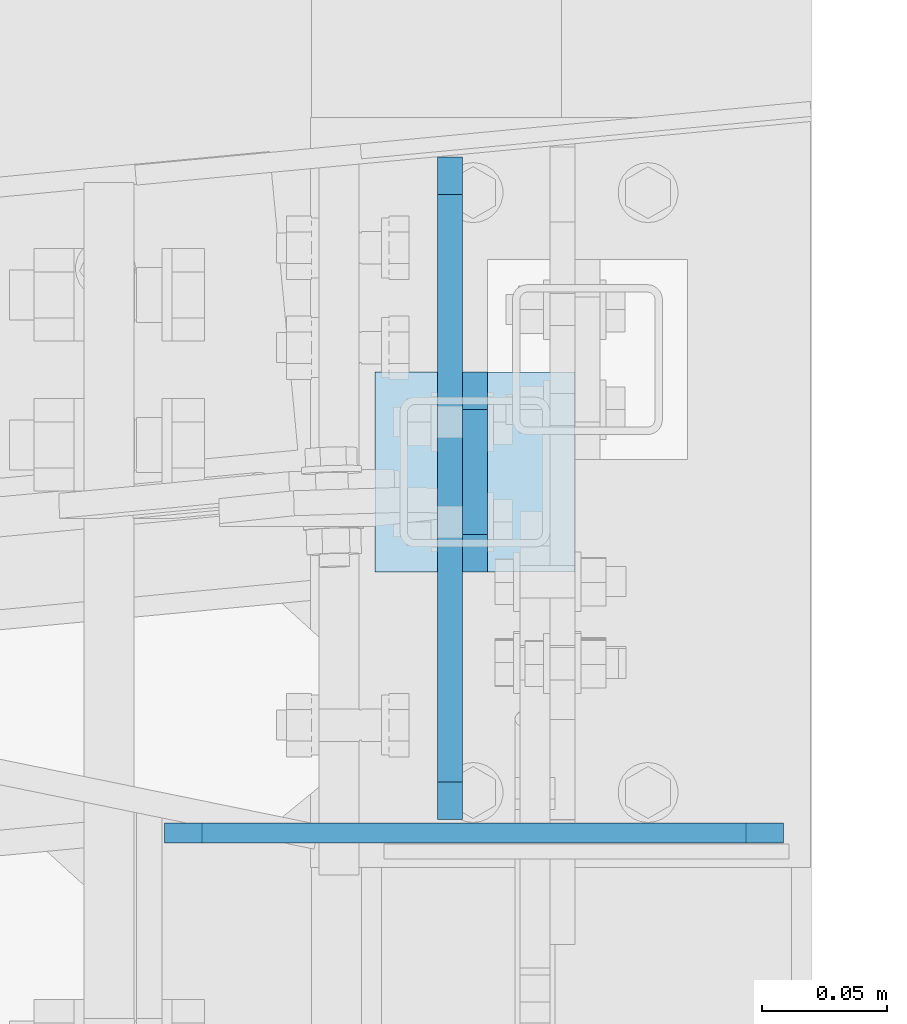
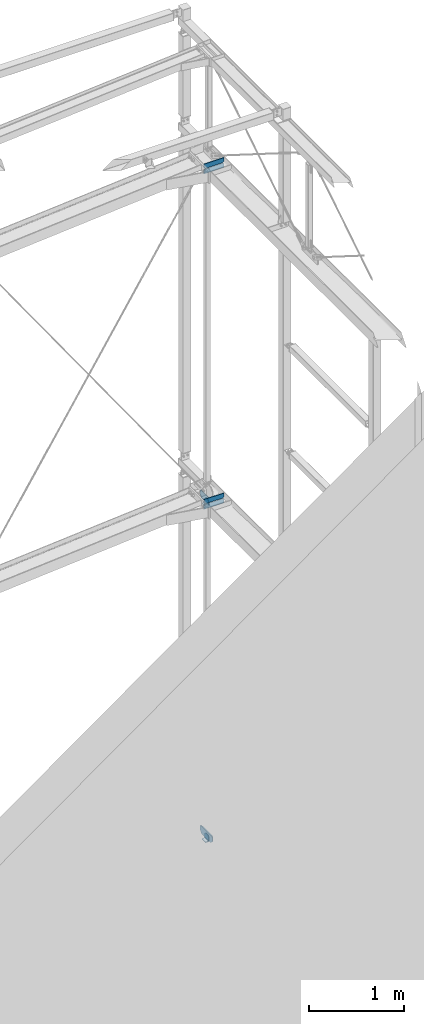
# One storey, part 192 of 271: 10 plates, 5 elements without a shape of their own.
"""IFC2X3 building model written with IfcOpenShell, lengths in millimetres."""

from ifc_helpers import new_model, si_unit, frame, origin_with_axes, place, context, subcontext, project, spatial, polyline, outline, extrude, material, type_object, element, aggregate, save


model = new_model("IFC2X3")

# Units and contexts
model_context = context("Model", 3, precision=1e-05, world=origin_with_axes())
body_context = subcontext(model_context, "Body", "Model", "MODEL_VIEW")
ifc_project = project(units=[si_unit("LENGTHUNIT", "METRE", prefix="MILLI"), si_unit("AREAUNIT", "SQUARE_METRE"), si_unit("VOLUMEUNIT", "CUBIC_METRE"), si_unit("MASSUNIT", "GRAM", prefix="KILO"), si_unit("TIMEUNIT", "SECOND"), si_unit("PLANEANGLEUNIT", "RADIAN"), si_unit("SOLIDANGLEUNIT", "STERADIAN"), si_unit("THERMODYNAMICTEMPERATUREUNIT", "DEGREE_CELSIUS"), si_unit("LUMINOUSINTENSITYUNIT", "LUMEN")], contexts=[model_context])

# Site, building, storey
site_placement = place(None, origin_with_axes())
site = spatial("IfcSite", under=ifc_project, at=site_placement, Name="Undefined", CompositionType="ELEMENT")
building_placement = place(site_placement, origin_with_axes())
building = spatial("IfcBuilding", under=site, at=building_placement, Name="Undefined", CompositionType="ELEMENT")
storey_placement = place(building_placement, origin_with_axes())
storey = spatial("IfcBuildingStorey", under=building, at=storey_placement, Name="Undefined", CompositionType="ELEMENT", Elevation=0.0)

# Assembly, plate
assembly_1_placement = place(storey_placement, origin_with_axes())
assembly_1 = element("IfcElementAssembly", 1, at=assembly_1_placement, inside=storey, AssemblyPlace="NOTDEFINED", PredefinedType="RIGID_FRAME")
ifc_material = material(Name="STEEL/S355JR")
plate_type_1 = type_object("IfcPlateType", Name="BL10*70", PredefinedType="NOTDEFINED")
plate_1_placement = place(assembly_1_placement, frame((12573.751374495, 4332.19355050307, 14256.049999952), z_axis=(1.0, 0.0, 0.0), x_axis=(0.0, -0.707106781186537, 0.707106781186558)))
plate_1 = element("IfcPlate", 2, at=plate_1_placement, type_object=plate_type_1, material=ifc_material, Name="BLACHA", ObjectType="BL10*70", context=body_context, shape_type="SweptSolid", body=[
    extrude(outline(polyline([(0.0, 0.0), (21.2132034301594, 1.09139364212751e-11), (56.5685424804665, 35.3553390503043), (56.568542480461, 56.5685424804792), (17.6776695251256, 95.4594192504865), (-38.890872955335, 38.8908729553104), (0.0, 0.0)])), frame((0.0, 0.0, -5.0), z_axis=(0.0, 0.0, 1.0), x_axis=(1.0, 0.0, 0.0)), (0.0, 0.0, 1.0), 10.0),
])

assembly_2_placement = place(storey_placement, origin_with_axes())
assembly_2 = element("IfcElementAssembly", 3, at=assembly_2_placement, inside=storey, AssemblyPlace="NOTDEFINED", PredefinedType="RIGID_FRAME")
plate_2_placement = place(assembly_2_placement, frame((12573.751374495, 4332.19355050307, 9936.04999995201), z_axis=(1.0, 0.0, 0.0), x_axis=(0.0, -0.707106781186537, 0.707106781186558)))
plate_2 = element("IfcPlate", 4, at=plate_2_placement, type_object=plate_type_1, material=ifc_material, Name="BLACHA", ObjectType="BL10*70", context=body_context, shape_type="SweptSolid", body=[
    extrude(outline(polyline([(0.0, 0.0), (21.2132034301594, 1.09139364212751e-11), (56.5685424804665, 35.3553390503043), (56.568542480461, 56.5685424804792), (17.6776695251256, 95.4594192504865), (-38.890872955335, 38.8908729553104), (0.0, 0.0)])), frame((0.0, 0.0, -5.0), z_axis=(0.0, 0.0, 1.0), x_axis=(1.0, 0.0, 0.0)), (0.0, 0.0, 1.0), 10.0),
])

assembly_3_placement = place(storey_placement, origin_with_axes())
assembly_3 = element("IfcElementAssembly", 5, at=assembly_3_placement, inside=storey, AssemblyPlace="NOTDEFINED", PredefinedType="RIGID_FRAME")
plate_type_2 = type_object("IfcPlateType", Name="BL10*100", PredefinedType="NOTDEFINED")
plate_3_placement = place(assembly_3_placement, frame((12563.751374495, 4418.19355050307, 14321.049999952), z_axis=(1.0, 0.0, 0.0), x_axis=(0.0, -1.0, 0.0)))
plate_3 = element("IfcPlate", 6, at=plate_3_placement, type_object=plate_type_2, material=ifc_material, Name="BLACHA", ObjectType="BL10*100", context=body_context, shape_type="SweptSolid", body=[
    extrude(outline(polyline([(0.0, 15.0), (15.0, -1.59872115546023e-14), (250.0, -1.4210854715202e-14), (265.0, 15.0), (265.0, 60.0000000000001), (225.0, 100.0), (40.0, 100.0), (0.0, 60.0), (0.0, 15.0)])), frame((0.0, 0.0, -5.0), z_axis=(0.0, 0.0, 1.0), x_axis=(1.0, 0.0, 0.0)), (0.0, 0.0, 1.0), 10.0),
])

assembly_4_placement = place(storey_placement, origin_with_axes())
assembly_4 = element("IfcElementAssembly", 7, at=assembly_4_placement, inside=storey, AssemblyPlace="NOTDEFINED", PredefinedType="RIGID_FRAME")
plate_4_placement = place(assembly_4_placement, frame((12563.751374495, 4418.19355050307, 10001.049999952), z_axis=(1.0, 0.0, 0.0), x_axis=(0.0, -1.0, 0.0)))
plate_4 = element("IfcPlate", 8, at=plate_4_placement, type_object=plate_type_2, material=ifc_material, Name="BLACHA", ObjectType="BL10*100", context=body_context, shape_type="SweptSolid", body=[
    extrude(outline(polyline([(0.0, 15.0), (15.0, -1.59872115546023e-14), (250.0, -1.4210854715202e-14), (265.0, 15.0), (265.0, 60.0000000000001), (225.0, 100.0), (40.0, 100.0), (0.0, 60.0), (0.0, 15.0)])), frame((0.0, 0.0, -5.0), z_axis=(0.0, 0.0, 1.0), x_axis=(1.0, 0.0, 0.0)), (0.0, 0.0, 1.0), 10.0),
])
aggregate(assembly_4, [plate_4])

# Plate
plate_type_3 = type_object("IfcPlateType", Name="BL8*80", PredefinedType="NOTDEFINED")
plate_5_placement = place(assembly_1_placement, frame((12533.751374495, 4332.19355050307, 14197.049999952), z_axis=(0.0, 0.0, 1.0), x_axis=(0.0, -1.0, 0.0)))
plate_5 = element("IfcPlate", 9, at=plate_5_placement, type_object=plate_type_3, material=ifc_material, Name="BLACHA", ObjectType="BL8*80", context=body_context, shape_type="SweptSolid", body=[
    extrude(outline(polyline([(0.0, 0.0), (80.0, 0.0), (80.0, 80.0), (0.0, 80.0), (0.0, 0.0)])), frame((0.0, 0.0, -4.0), z_axis=(0.0, 0.0, 1.0), x_axis=(1.0, 0.0, 0.0)), (0.0, 0.0, 1.0), 8.0),
])

aggregate(assembly_1, [plate_5, plate_1])

plate_6_placement = place(assembly_2_placement, frame((12533.751374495, 4332.19355050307, 9877.04999995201), z_axis=(0.0, 0.0, 1.0), x_axis=(0.0, -1.0, 0.0)))
plate_6 = element("IfcPlate", 10, at=plate_6_placement, type_object=plate_type_3, material=ifc_material, Name="BLACHA", ObjectType="BL8*80", context=body_context, shape_type="SweptSolid", body=[
    extrude(outline(polyline([(0.0, 0.0), (80.0, 0.0), (80.0, 80.0), (0.0, 80.0), (0.0, 0.0)])), frame((0.0, 0.0, -4.0), z_axis=(0.0, 0.0, 1.0), x_axis=(1.0, 0.0, 0.0)), (0.0, 0.0, 1.0), 8.0),
])

aggregate(assembly_2, [plate_6, plate_2])

# Assembly, plates
assembly_5_placement = place(storey_placement, origin_with_axes())
assembly_5 = element("IfcElementAssembly", 11, at=assembly_5_placement, inside=storey, AssemblyPlace="NOTDEFINED", PredefinedType="RIGID_FRAME")
plate_type_4 = type_object("IfcPlateType", Name="BL8*60", PredefinedType="NOTDEFINED")
plate_7_placement = place(assembly_5_placement, frame((12449.5756869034, 4147.85328603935, 18581.049999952), z_axis=(0.0, 1.0, 0.0), x_axis=(0.0, 0.0, 1.0)))
plate_7 = element("IfcPlate", 12, at=plate_7_placement, type_object=plate_type_4, material=ifc_material, Name="BLACHA", ObjectType="BL8*60", context=body_context, shape_type="SweptSolid", body=[
    extrude(outline(polyline([(0.0, 0.0), (45.0, 0.0), (60.0, 15.0), (60.0, 232.600006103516), (45.0, 247.600006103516), (0.0, 247.600006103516), (0.0, 0.0)])), frame((0.0, 0.0, -4.0), z_axis=(0.0, 0.0, 1.0), x_axis=(1.0, 0.0, 0.0)), (0.0, 0.0, 1.0), 8.0),
])
plate_8_placement = place(assembly_5_placement, frame((12449.5756869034, 4147.85328603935, 18707.649999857), z_axis=(0.0, -1.0, 0.0), x_axis=(0.0, 0.0, -1.0)))
plate_8 = element("IfcPlate", 13, at=plate_8_placement, type_object=plate_type_4, material=ifc_material, Name="BLACHA", ObjectType="BL8*60", context=body_context, shape_type="SweptSolid", body=[
    extrude(outline(polyline([(0.0, 0.0), (45.0, 0.0), (60.0, 15.0), (60.0, 232.600006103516), (45.0, 247.600006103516), (0.0, 247.600006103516), (0.0, 0.0)])), frame((0.0, 0.0, -4.0), z_axis=(0.0, 0.0, 1.0), x_axis=(1.0, 0.0, 0.0)), (0.0, 0.0, 1.0), 8.0),
])
aggregate(assembly_5, [plate_7, plate_8])

# Plate
plate_9_placement = place(assembly_3_placement, frame((12449.5756869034, 4147.85328603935, 14261.049999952), z_axis=(0.0, 1.0, 0.0), x_axis=(0.0, 0.0, 1.0)))
plate_9 = element("IfcPlate", 14, at=plate_9_placement, type_object=plate_type_4, material=ifc_material, Name="BLACHA", ObjectType="BL8*60", context=body_context, shape_type="SweptSolid", body=[
    extrude(outline(polyline([(0.0, 0.0), (45.0, 0.0), (60.0, 15.0), (60.0, 232.600006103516), (45.0, 247.600006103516), (0.0, 247.600006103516), (0.0, 0.0)])), frame((0.0, 0.0, -4.0), z_axis=(0.0, 0.0, 1.0), x_axis=(1.0, 0.0, 0.0)), (0.0, 0.0, 1.0), 8.0),
])

plate_10_placement = place(assembly_3_placement, frame((12449.5756869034, 4147.85328603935, 14387.649999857), z_axis=(0.0, -1.0, 0.0), x_axis=(0.0, 0.0, -1.0)))
plate_10 = element("IfcPlate", 15, at=plate_10_placement, type_object=plate_type_4, material=ifc_material, Name="BLACHA", ObjectType="BL8*60", context=body_context, shape_type="SweptSolid", body=[
    extrude(outline(polyline([(0.0, 0.0), (45.0, 0.0), (60.0, 15.0), (60.0, 232.600006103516), (45.0, 247.600006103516), (0.0, 247.600006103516), (0.0, 0.0)])), frame((0.0, 0.0, -4.0), z_axis=(0.0, 0.0, 1.0), x_axis=(1.0, 0.0, 0.0)), (0.0, 0.0, 1.0), 8.0),
])

aggregate(assembly_3, [plate_9, plate_10, plate_3])

save(model, "model.ifc")
